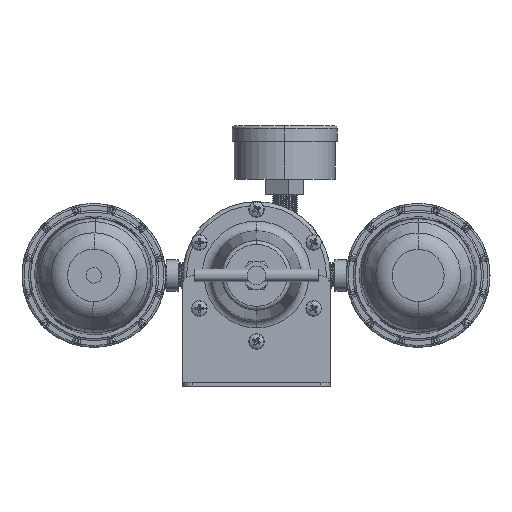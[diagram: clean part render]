
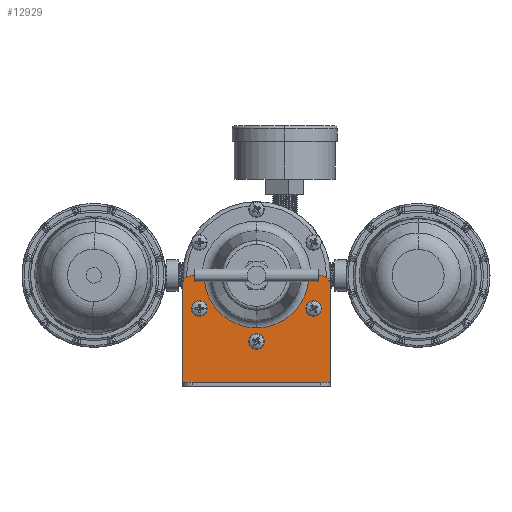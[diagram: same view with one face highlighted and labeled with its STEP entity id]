
A CAD part, front view. The second image highlights one B-rep face of the part: STEP entity #12929.
In plain terms, the highlighted planar face has unit normal (0, -1, 0) as drawn and (0, 1, 0) by its records, which use the part's own axes.
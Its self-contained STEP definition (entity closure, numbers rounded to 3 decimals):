
#257 = DIRECTION ( 'NONE',  ( 0., 1., 0. ) ) ;
#679 = LINE ( 'NONE', #1670, #32948 ) ;
#1057 = EDGE_CURVE ( 'NONE', #2268, #51864, #26904, .T. ) ;
#1555 = ORIENTED_EDGE ( 'NONE', *, *, #5036, .F. ) ;
#1670 = CARTESIAN_POINT ( 'NONE',  ( -38., 2., 0. ) ) ;
#1818 = ORIENTED_EDGE ( 'NONE', *, *, #1057, .F. ) ;
#2266 = CARTESIAN_POINT ( 'NONE',  ( -29.445, 2., 40. ) ) ;
#2268 = VERTEX_POINT ( 'NONE', #53410 ) ;
#2426 = VERTEX_POINT ( 'NONE', #30742 ) ;
#2481 = DIRECTION ( 'NONE',  ( 0., 0., 1. ) ) ;
#2750 = CARTESIAN_POINT ( 'NONE',  ( -38., 2., 57. ) ) ;
#3332 = VERTEX_POINT ( 'NONE', #14110 ) ;
#4158 = FACE_BOUND ( 'NONE', #55287, .T. ) ;
#5036 = EDGE_CURVE ( 'NONE', #40018, #36868, #55030, .T. ) ;
#5974 = EDGE_CURVE ( 'NONE', #7850, #23191, #56499, .T. ) ;
#6405 = CARTESIAN_POINT ( 'NONE',  ( 29.445, 2., 42.9 ) ) ;
#6415 = CARTESIAN_POINT ( 'NONE',  ( 0., 2., 23. ) ) ;
#6878 = DIRECTION ( 'NONE',  ( 0., 1., 0. ) ) ;
#6948 = DIRECTION ( 'NONE',  ( 0., 0., 1. ) ) ;
#7478 = EDGE_LOOP ( 'NONE', ( #52945, #35610, #57713, #34731, #58172, #61650, #56155, #48008, #1555, #42765 ) ) ;
#7687 = CIRCLE ( 'NONE', #27601, 2. ) ;
#7850 = VERTEX_POINT ( 'NONE', #54802 ) ;
#8024 = DIRECTION ( 'NONE',  ( 0., 0., 1. ) ) ;
#8816 = CIRCLE ( 'NONE', #63613, 2.9 ) ;
#9023 = DIRECTION ( 'NONE',  ( 0., 0., 1. ) ) ;
#9436 = CARTESIAN_POINT ( 'NONE',  ( -26.936, 2., 55.138 ) ) ;
#10388 = DIRECTION ( 'NONE',  ( 0., 0., 1. ) ) ;
#10440 = DIRECTION ( 'NONE',  ( 0., 0., 1. ) ) ;
#10642 = DIRECTION ( 'NONE',  ( 0., 1., 0. ) ) ;
#11991 = DIRECTION ( 'NONE',  ( 1., 0., 0. ) ) ;
#12596 = CARTESIAN_POINT ( 'NONE',  ( 0., 2., 57. ) ) ;
#12598 = CARTESIAN_POINT ( 'NONE',  ( 28.931, 2., 55. ) ) ;
#12929 = ADVANCED_FACE ( 'NONE', ( #4158, #53031, #29321, #64871 ), #25305, .T. ) ;
#14110 = CARTESIAN_POINT ( 'NONE',  ( 33., 2., 57. ) ) ;
#14957 = EDGE_CURVE ( 'NONE', #15357, #3332, #18920, .T. ) ;
#15120 = VERTEX_POINT ( 'NONE', #44376 ) ;
#15357 = VERTEX_POINT ( 'NONE', #28434 ) ;
#15682 = ORIENTED_EDGE ( 'NONE', *, *, #5974, .F. ) ;
#15778 = AXIS2_PLACEMENT_3D ( 'NONE', #12598, #6878, #42598 ) ;
#15974 = CIRCLE ( 'NONE', #15778, 2. ) ;
#16387 = DIRECTION ( 'NONE',  ( 0., 0., 1. ) ) ;
#18920 = LINE ( 'NONE', #2750, #41852 ) ;
#19091 = VERTEX_POINT ( 'NONE', #55086 ) ;
#19209 = CARTESIAN_POINT ( 'NONE',  ( -38., 2., 2. ) ) ;
#19917 = ORIENTED_EDGE ( 'NONE', *, *, #28349, .F. ) ;
#20236 = DIRECTION ( 'NONE',  ( 0., 0., -1. ) ) ;
#21073 = EDGE_CURVE ( 'NONE', #15120, #2426, #50039, .T. ) ;
#21594 = ORIENTED_EDGE ( 'NONE', *, *, #28204, .F. ) ;
#22134 = DIRECTION ( 'NONE',  ( 0., 0., 1. ) ) ;
#22535 = AXIS2_PLACEMENT_3D ( 'NONE', #50151, #10642, #10440 ) ;
#23191 = VERTEX_POINT ( 'NONE', #6405 ) ;
#23543 = CARTESIAN_POINT ( 'NONE',  ( -29.445, 2., 42.9 ) ) ;
#25305 = PLANE ( 'NONE',  #44226 ) ;
#25797 = EDGE_LOOP ( 'NONE', ( #19917, #15682 ) ) ;
#26322 = EDGE_LOOP ( 'NONE', ( #21594, #37995 ) ) ;
#26904 = CIRCLE ( 'NONE', #30550, 2.9 ) ;
#26954 = DIRECTION ( 'NONE',  ( 0., 0., 1. ) ) ;
#27601 = AXIS2_PLACEMENT_3D ( 'NONE', #63650, #28975, #58347 ) ;
#28204 = EDGE_CURVE ( 'NONE', #51078, #28431, #59627, .T. ) ;
#28349 = EDGE_CURVE ( 'NONE', #23191, #7850, #37523, .T. ) ;
#28431 = VERTEX_POINT ( 'NONE', #47465 ) ;
#28434 = CARTESIAN_POINT ( 'NONE',  ( 28.931, 2., 57. ) ) ;
#28692 = AXIS2_PLACEMENT_3D ( 'NONE', #62489, #42492, #22134 ) ;
#28975 = DIRECTION ( 'NONE',  ( 0., 1., 0. ) ) ;
#29321 = FACE_BOUND ( 'NONE', #26322, .T. ) ;
#30338 = CARTESIAN_POINT ( 'NONE',  ( 38., 2., 0. ) ) ;
#30349 = CARTESIAN_POINT ( 'NONE',  ( 0., 2., 0. ) ) ;
#30550 = AXIS2_PLACEMENT_3D ( 'NONE', #53979, #59257, #9023 ) ;
#30742 = CARTESIAN_POINT ( 'NONE',  ( -33., 2., 57. ) ) ;
#32081 = AXIS2_PLACEMENT_3D ( 'NONE', #46168, #51449, #16387 ) ;
#32948 = VECTOR ( 'NONE', #6948, 1000. ) ;
#32977 = EDGE_CURVE ( 'NONE', #52628, #36480, #64619, .T. ) ;
#33120 = CARTESIAN_POINT ( 'NONE',  ( -33., 2., 52. ) ) ;
#33242 = EDGE_CURVE ( 'NONE', #52628, #15120, #679, .T. ) ;
#33976 = CIRCLE ( 'NONE', #28692, 5. ) ;
#34652 = EDGE_CURVE ( 'NONE', #51864, #2268, #8816, .T. ) ;
#34731 = ORIENTED_EDGE ( 'NONE', *, *, #32977, .F. ) ;
#34939 = CARTESIAN_POINT ( 'NONE',  ( 0., 2., 25.9 ) ) ;
#35181 = CARTESIAN_POINT ( 'NONE',  ( 0., 2., 2. ) ) ;
#35610 = ORIENTED_EDGE ( 'NONE', *, *, #40153, .T. ) ;
#36480 = VERTEX_POINT ( 'NONE', #59892 ) ;
#36868 = VERTEX_POINT ( 'NONE', #9436 ) ;
#37523 = CIRCLE ( 'NONE', #32081, 2.9 ) ;
#37995 = ORIENTED_EDGE ( 'NONE', *, *, #60851, .F. ) ;
#38223 = DIRECTION ( 'NONE',  ( 0., 1., 0. ) ) ;
#40018 = VERTEX_POINT ( 'NONE', #65187 ) ;
#40153 = EDGE_CURVE ( 'NONE', #3332, #52323, #33976, .T. ) ;
#41437 = VECTOR ( 'NONE', #56868, 1000. ) ;
#41852 = VECTOR ( 'NONE', #11991, 1000. ) ;
#42141 = CARTESIAN_POINT ( 'NONE',  ( -38., 2., 57. ) ) ;
#42492 = DIRECTION ( 'NONE',  ( 0., 1., 0. ) ) ;
#42598 = DIRECTION ( 'NONE',  ( 0., 0., 1. ) ) ;
#42765 = ORIENTED_EDGE ( 'NONE', *, *, #58961, .T. ) ;
#43666 = EDGE_CURVE ( 'NONE', #52323, #36480, #58004, .T. ) ;
#44226 = AXIS2_PLACEMENT_3D ( 'NONE', #30349, #257, #10388 ) ;
#44376 = CARTESIAN_POINT ( 'NONE',  ( -38., 2., 52. ) ) ;
#46168 = CARTESIAN_POINT ( 'NONE',  ( 29.445, 2., 40. ) ) ;
#46752 = DIRECTION ( 'NONE',  ( 0., 1., 0. ) ) ;
#47465 = CARTESIAN_POINT ( 'NONE',  ( 0., 2., 20.1 ) ) ;
#48008 = ORIENTED_EDGE ( 'NONE', *, *, #48404, .T. ) ;
#48404 = EDGE_CURVE ( 'NONE', #19091, #36868, #7687, .T. ) ;
#50039 = CIRCLE ( 'NONE', #53771, 5. ) ;
#50151 = CARTESIAN_POINT ( 'NONE',  ( 29.445, 2., 40. ) ) ;
#51078 = VERTEX_POINT ( 'NONE', #34939 ) ;
#51200 = VECTOR ( 'NONE', #64072, 1000. ) ;
#51449 = DIRECTION ( 'NONE',  ( 0., 1., 0. ) ) ;
#51864 = VERTEX_POINT ( 'NONE', #23543 ) ;
#52173 = DIRECTION ( 'NONE',  ( 0., 1., 0. ) ) ;
#52323 = VERTEX_POINT ( 'NONE', #60292 ) ;
#52628 = VERTEX_POINT ( 'NONE', #19209 ) ;
#52945 = ORIENTED_EDGE ( 'NONE', *, *, #14957, .T. ) ;
#53031 = FACE_BOUND ( 'NONE', #25797, .T. ) ;
#53287 = VECTOR ( 'NONE', #20236, 1000. ) ;
#53410 = CARTESIAN_POINT ( 'NONE',  ( -29.445, 2., 37.1 ) ) ;
#53653 = ORIENTED_EDGE ( 'NONE', *, *, #34652, .F. ) ;
#53771 = AXIS2_PLACEMENT_3D ( 'NONE', #33120, #38223, #8024 ) ;
#53855 = AXIS2_PLACEMENT_3D ( 'NONE', #6415, #46752, #61489 ) ;
#53979 = CARTESIAN_POINT ( 'NONE',  ( -29.445, 2., 40. ) ) ;
#54802 = CARTESIAN_POINT ( 'NONE',  ( 29.445, 2., 37.1 ) ) ;
#55030 = CIRCLE ( 'NONE', #55256, 27. ) ;
#55086 = CARTESIAN_POINT ( 'NONE',  ( -28.931, 2., 57. ) ) ;
#55256 = AXIS2_PLACEMENT_3D ( 'NONE', #12596, #57533, #63272 ) ;
#55287 = EDGE_LOOP ( 'NONE', ( #53653, #1818 ) ) ;
#55637 = CIRCLE ( 'NONE', #53855, 2.9 ) ;
#56144 = AXIS2_PLACEMENT_3D ( 'NONE', #61623, #52173, #26954 ) ;
#56155 = ORIENTED_EDGE ( 'NONE', *, *, #60411, .T. ) ;
#56376 = LINE ( 'NONE', #42141, #41437 ) ;
#56499 = CIRCLE ( 'NONE', #22535, 2.9 ) ;
#56868 = DIRECTION ( 'NONE',  ( 1., 0., 0. ) ) ;
#57533 = DIRECTION ( 'NONE',  ( 0., 1., 0. ) ) ;
#57713 = ORIENTED_EDGE ( 'NONE', *, *, #43666, .T. ) ;
#58004 = LINE ( 'NONE', #30338, #53287 ) ;
#58172 = ORIENTED_EDGE ( 'NONE', *, *, #33242, .T. ) ;
#58347 = DIRECTION ( 'NONE',  ( 0., 0., 1. ) ) ;
#58961 = EDGE_CURVE ( 'NONE', #40018, #15357, #15974, .T. ) ;
#59257 = DIRECTION ( 'NONE',  ( 0., 1., 0. ) ) ;
#59627 = CIRCLE ( 'NONE', #56144, 2.9 ) ;
#59892 = CARTESIAN_POINT ( 'NONE',  ( 38., 2., 2. ) ) ;
#60292 = CARTESIAN_POINT ( 'NONE',  ( 38., 2., 52. ) ) ;
#60411 = EDGE_CURVE ( 'NONE', #2426, #19091, #56376, .T. ) ;
#60851 = EDGE_CURVE ( 'NONE', #28431, #51078, #55637, .T. ) ;
#61489 = DIRECTION ( 'NONE',  ( 0., 0., 1. ) ) ;
#61623 = CARTESIAN_POINT ( 'NONE',  ( 0., 2., 23. ) ) ;
#61650 = ORIENTED_EDGE ( 'NONE', *, *, #21073, .T. ) ;
#62489 = CARTESIAN_POINT ( 'NONE',  ( 33., 2., 52. ) ) ;
#63272 = DIRECTION ( 'NONE',  ( 0., 0., 1. ) ) ;
#63503 = DIRECTION ( 'NONE',  ( 0., 1., 0. ) ) ;
#63613 = AXIS2_PLACEMENT_3D ( 'NONE', #2266, #63503, #2481 ) ;
#63650 = CARTESIAN_POINT ( 'NONE',  ( -28.931, 2., 55. ) ) ;
#64072 = DIRECTION ( 'NONE',  ( 1., 0., 0. ) ) ;
#64619 = LINE ( 'NONE', #35181, #51200 ) ;
#64871 = FACE_OUTER_BOUND ( 'NONE', #7478, .T. ) ;
#65187 = CARTESIAN_POINT ( 'NONE',  ( 26.936, 2., 55.138 ) ) ;
